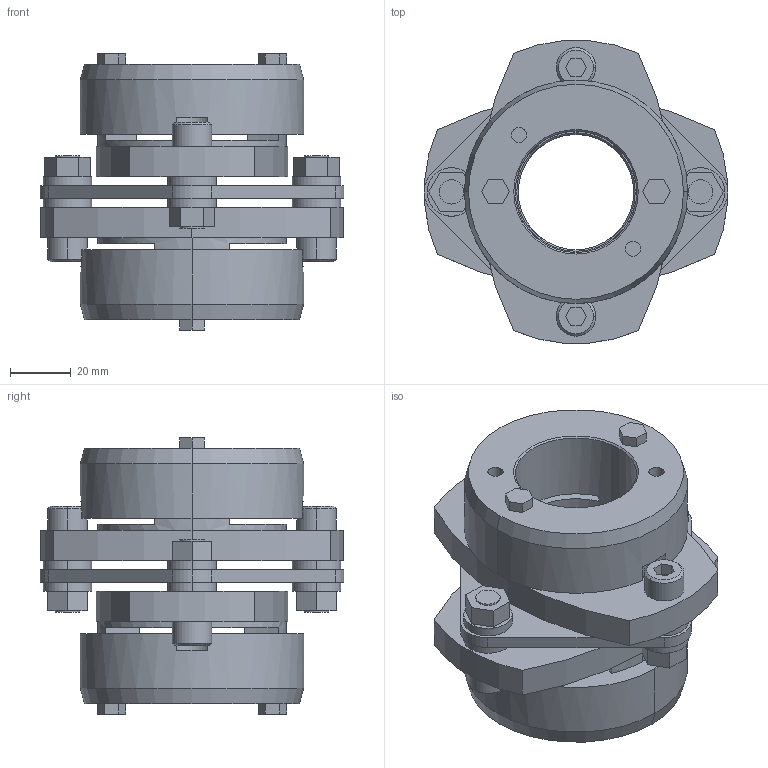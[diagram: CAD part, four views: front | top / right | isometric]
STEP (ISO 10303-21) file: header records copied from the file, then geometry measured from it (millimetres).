
FILE_DESCRIPTION((''),'2;1');
FILE_NAME('LCS-100T7-38×40.stp','2011-09-09T08:28:13',(''),(''),'AutoCAD STEP 2000i','AutoCAD 2000i',', , ');
FILE_SCHEMA(('CONFIG_CONTROL_DESIGN'));
Length unit declared in the file: millimetre
Products named in the file (10): LCS-100T7-38×38; 忣兜1; LC100T7-T038-1; LC100T7-T038; LC100T7-T035; LC100T7-T030; LC100T7-T025; LC100T7-T022-1; LC100T7-T022; LCS100-ITA
Assembly tree (9 placements, depth 2):
  LCS-100T7-38×38
    忣兜1
    LC100T7-T038-1
    LC100T7-T038
    LC100T7-T035
    LC100T7-T030
    LC100T7-T025
    LC100T7-T022-1
    LC100T7-T022
    LCS100-ITA
Bounding box: 100 x 99.93 x 91 mm (x, y, z)
Volume: 260443.6 mm3; surface area: 65700.1 mm2
Topology: 1 solids, 1 shells, 226 faces, 556 edges, 364 vertices
Faces by surface type: plane 122, cylinder 84, cone 20
Entity records: 6969 total; most frequent: DIRECTION 1240, CARTESIAN_POINT 1156, ORIENTED_EDGE 1112, EDGE_CURVE 556, AXIS2_PLACEMENT_3D 448, VERTEX_POINT 364, VECTOR 344, LINE 344
